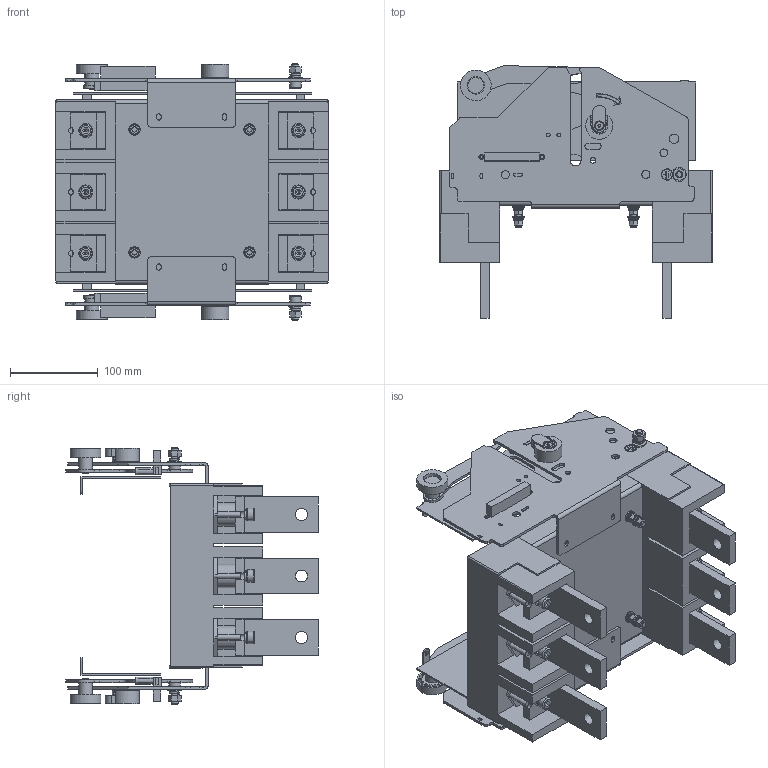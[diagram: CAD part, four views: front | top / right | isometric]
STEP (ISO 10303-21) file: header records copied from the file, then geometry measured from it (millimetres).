
FILE_DESCRIPTION(/* description */ (''),/* implementation_level */ '2;1');
FILE_NAME(/* name */ '800抽屉式外形.stp',/* time_stamp */ '2023-09-15T15:50:20+08:00',/* author */ (''),/* organization */ (''),/* preprocessor_version */ 'ST-DEVELOPER v16',/* originating_system */ 'SIEMENS PLM Software NX 10.0',/* authorisation */ '');
FILE_SCHEMA (('AUTOMOTIVE_DESIGN { 1 0 10303 214 3 1 1 1 }'));
Products named in the file (1): midi4F30647E03ub
Bounding box: 310 x 287.38 x 292 mm (x, y, z)
Volume: 3086156 mm3; surface area: 873575.8 mm2
Topology: 77 solids, 95 shells, 2082 faces, 5284 edges, 3506 vertices
Faces by surface type: plane 1218, cylinder 514, bspline 196, extrusion 66, torus 42, cone 30, sphere 16
Full cylindrical faces by diameter (mm): 2 x16, 3 x2, 3.2 x16, 3.5 x4, 4.3 x8, 4.4 x16, 5 x12, 5.2 x12, 5.9 x2, 6 x22, 6.3 x2, 6.4 x2, 6.5 x14, 6.8 x2, 8 x10, 8.1 x2, 8.3 x2, 8.5 x8, 9 x10, 9.2 x4, 10 x2, 10.3 x2, 10.7 x2, 11 x4, 12 x4, 13 x10, 13.2 x2, 13.5 x6, 14.2 x6, 16 x10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
Entity records: 70229 total; most frequent: CARTESIAN_POINT 21636, ORIENTED_EDGE 9724, DIRECTION 9212, EDGE_CURVE 4862, VERTEX_POINT 3378, AXIS2_PLACEMENT_3D 3084, VECTOR 3044, LINE 2978
